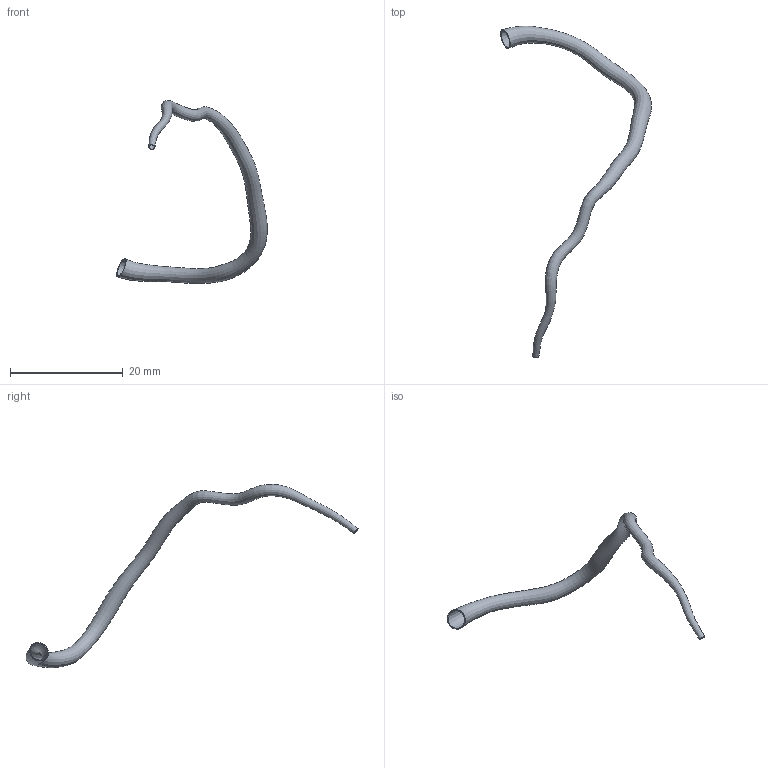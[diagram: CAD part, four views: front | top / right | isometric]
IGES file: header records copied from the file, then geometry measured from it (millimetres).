
Global section: file name: C:\Documents and Settings\Administrator\Desktop\FDA-Pig\Domestic RCA\Pig_000011\rca.seg.es.igs; native system: Rhinoceros ( May 19 2006 ); preprocessor: Trout Lake IGES 012 May 19 2006; date: 111205.185659; units: centimetre
Bounding box: 26.76 x 58.93 x 32.52 mm (x, y, z)
Surface area: 1363 mm2 (no closed solid volume)
Topology: 0 solids, 0 shells, 4 faces, 13 edges, 10 vertices
Faces by surface type: bspline 4
